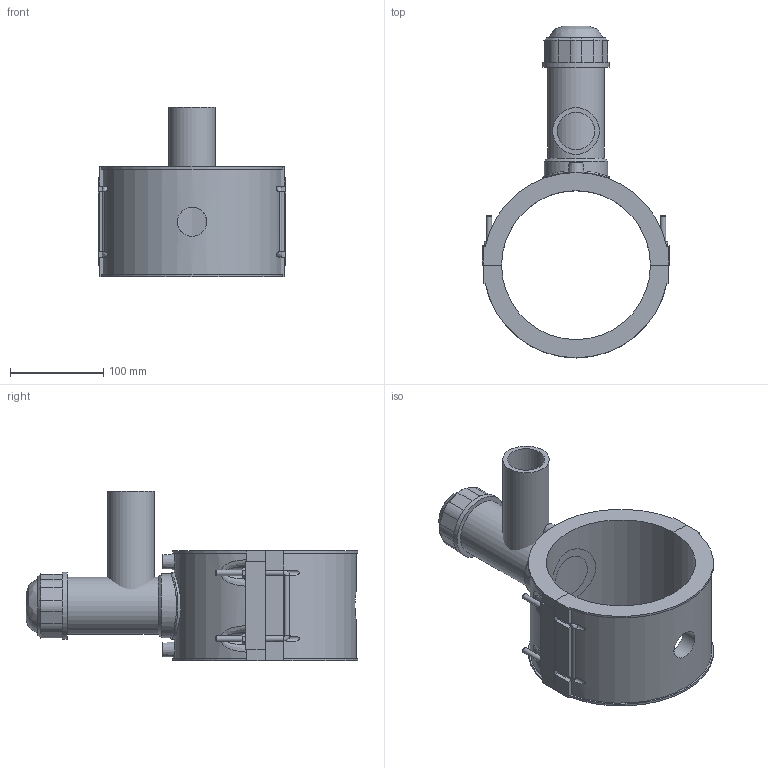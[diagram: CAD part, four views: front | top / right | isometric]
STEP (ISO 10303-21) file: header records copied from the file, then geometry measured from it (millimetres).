
FILE_DESCRIPTION(/* description */ (''),/* implementation_level */ '2;1');
FILE_NAME(/* name */ 'C:\Dropbox\KIMPROJECTS-Inventor 2019\99-16-3568-Processing\ElectroFusion Fittings\4963P4\stp\4963P4160050.stp',/* time_stamp */ '2022-03-17T11:30:23+02:00',/* author */ ('KIM'),/* organization */ (''),/* preprocessor_version */ 'ST-DEVELOPER v17.2',/* originating_system */ 'Autodesk Inventor 2019',/* authorisation */ '');
FILE_SCHEMA (('AUTOMOTIVE_DESIGN { 1 0 10303 214 3 1 1 }'));
Length unit declared in the file: millimetre
Products named in the file (1): 4963P4160050
Bounding box: 201 x 356.55 x 182 mm (x, y, z)
Volume: 1577690.4 mm3; surface area: 276933.4 mm2
Topology: 3 solids, 3 shells, 194 faces, 503 edges, 329 vertices
Faces by surface type: plane 118, cylinder 51, cone 15, bspline 10
Full cylindrical faces by diameter (mm): 4 x2, 6 x8, 10 x2, 31.36 x1, 40 x1, 50 x1, 50.4 x1, 61.2 x1, 68.4 x1, 72 x2
Entity records: 7276 total; most frequent: CARTESIAN_POINT 2484, ORIENTED_EDGE 1006, DIRECTION 946, EDGE_CURVE 503, VERTEX_POINT 329, AXIS2_PLACEMENT_3D 319, LINE 308, VECTOR 308
